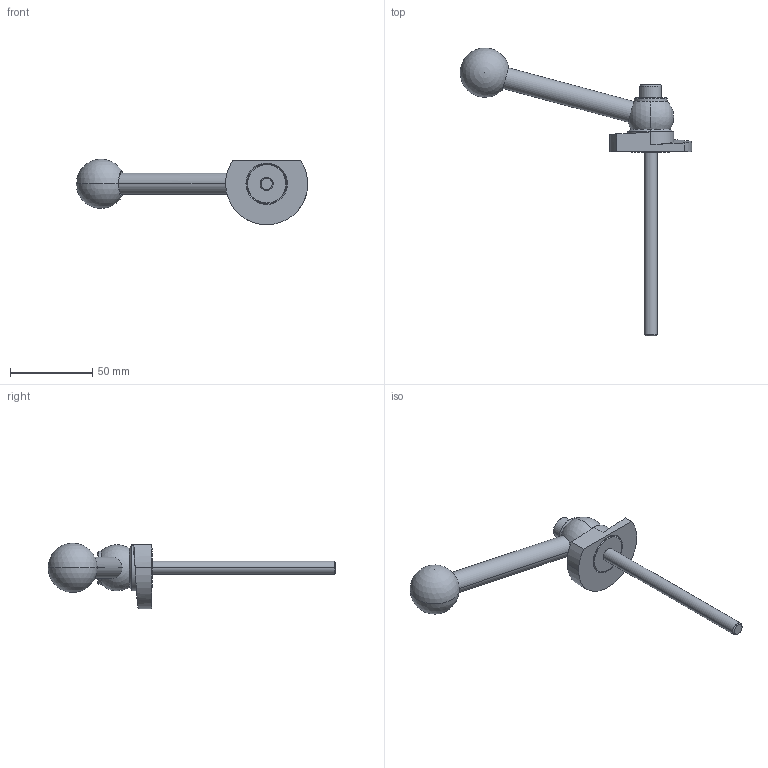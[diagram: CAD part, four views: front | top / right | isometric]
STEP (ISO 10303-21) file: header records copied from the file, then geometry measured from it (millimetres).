
FILE_DESCRIPTION (( 'STEP AP214' ), '1' );
FILE_NAME ('918.1-50-KVS-R-112.step', '2024-05-15T13:02:48', ( '' ), ( '' ), 'SwSTEP 2.0', 'SolidWorks 2022', '' );
FILE_SCHEMA (( 'AUTOMOTIVE_DESIGN' ));
Length unit declared in the file: millimetre
Products named in the file (1): 918.1-50-KVS-R-112
Bounding box: 140.94 x 175.31 x 40 mm (x, y, z)
Volume: 57076.8 mm3; surface area: 18304.2 mm2
Topology: 1 solids, 1 shells, 62 faces, 141 edges, 89 vertices
Faces by surface type: plane 20, cylinder 19, cone 14, sphere 4, bspline 3, torus 2
Entity records: 2011 total; most frequent: CARTESIAN_POINT 618, DIRECTION 305, ORIENTED_EDGE 262, EDGE_CURVE 131, AXIS2_PLACEMENT_3D 125, VERTEX_POINT 83, EDGE_LOOP 74, CIRCLE 65
